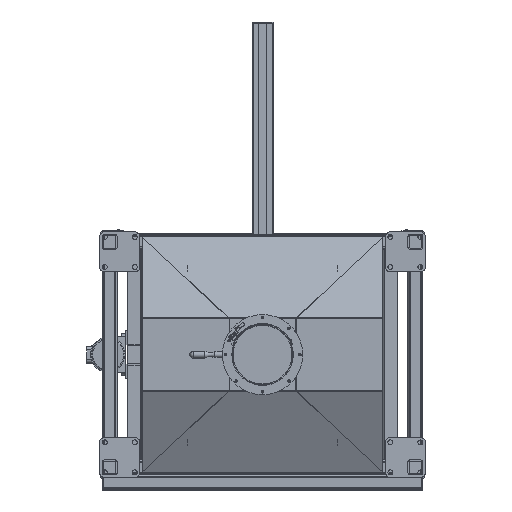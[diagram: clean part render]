
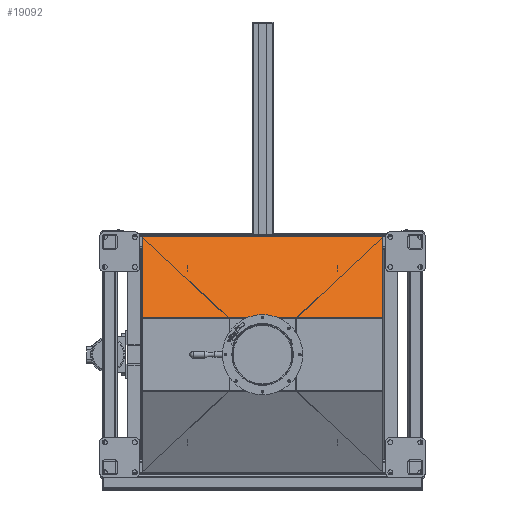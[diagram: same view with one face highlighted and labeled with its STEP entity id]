
A CAD part, front view. The second image highlights one B-rep face of the part: STEP entity #19092.
In plain terms, the highlighted planar face has unit normal (0, -0.883, 0.469).
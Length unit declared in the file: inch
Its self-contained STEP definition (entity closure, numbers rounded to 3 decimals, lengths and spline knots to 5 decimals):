
#1448=PLANE('',#21246);
#2093=FACE_OUTER_BOUND('',#3209,.T.);
#3209=EDGE_LOOP('',(#13573,#13574,#13575,#13576));
#4490=LINE('',#29888,#5951);
#4514=LINE('',#29949,#5975);
#4515=LINE('',#29952,#5976);
#4516=LINE('',#29953,#5977);
#5951=VECTOR('',#23912,0.3937);
#5975=VECTOR('',#23974,0.3937);
#5976=VECTOR('',#23977,0.3937);
#5977=VECTOR('',#23978,0.3937);
#8477=VERTEX_POINT('',#29885);
#8478=VERTEX_POINT('',#29887);
#8496=VERTEX_POINT('',#29947);
#8497=VERTEX_POINT('',#29951);
#10436=EDGE_CURVE('',#8477,#8478,#4490,.T.);
#10467=EDGE_CURVE('',#8496,#8477,#4514,.T.);
#10468=EDGE_CURVE('',#8497,#8496,#4515,.T.);
#10469=EDGE_CURVE('',#8497,#8478,#4516,.T.);
#13573=ORIENTED_EDGE('',*,*,#10467,.F.);
#13574=ORIENTED_EDGE('',*,*,#10468,.F.);
#13575=ORIENTED_EDGE('',*,*,#10469,.T.);
#13576=ORIENTED_EDGE('',*,*,#10436,.F.);
#19092=ADVANCED_FACE('',(#2093),#1448,.T.);
#21246=AXIS2_PLACEMENT_3D('',#29950,#23975,#23976);
#23912=DIRECTION('',(0.,0.469,0.883));
#23974=DIRECTION('',(-1.,0.,0.));
#23975=DIRECTION('center_axis',(0.,-0.883,0.469));
#23976=DIRECTION('ref_axis',(0.,-0.469,-0.883));
#23977=DIRECTION('',(0.,-0.469,-0.883));
#23978=DIRECTION('',(-1.,0.,0.));
#29885=CARTESIAN_POINT('',(-24.,0.03564,7.33045));
#29887=CARTESIAN_POINT('',(-24.,8.69466,23.61569));
#29888=CARTESIAN_POINT('',(-24.,0.03564,7.33045));
#29947=CARTESIAN_POINT('',(24.,0.03564,7.33045));
#29949=CARTESIAN_POINT('',(0.,0.03564,7.33045));
#29950=CARTESIAN_POINT('Origin',(0.,8.69466,23.61569));
#29951=CARTESIAN_POINT('',(24.,8.69466,23.61569));
#29952=CARTESIAN_POINT('',(24.,0.03564,7.33045));
#29953=CARTESIAN_POINT('',(0.,8.69466,23.61569));
